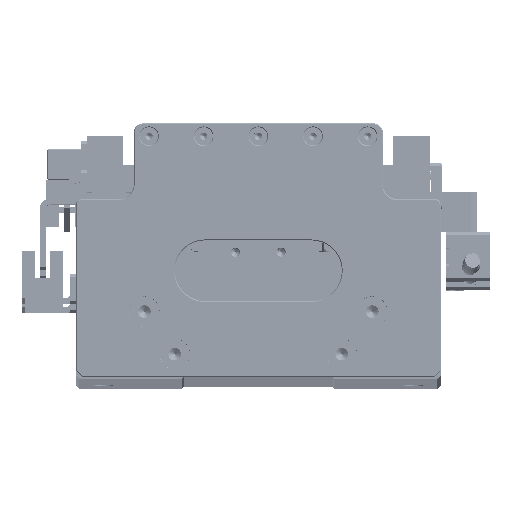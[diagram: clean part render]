
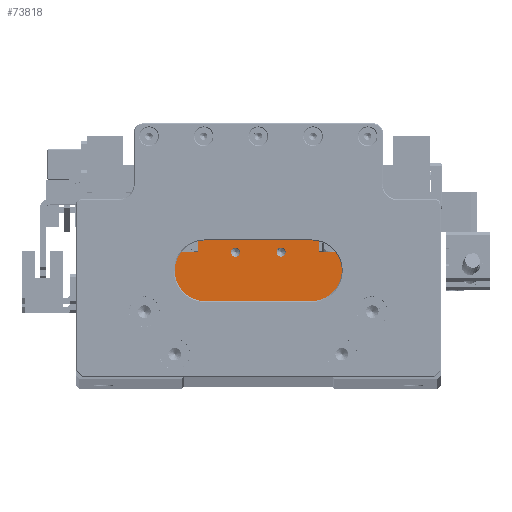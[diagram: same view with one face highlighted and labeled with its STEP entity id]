
A CAD part, top view. The second image highlights one B-rep face of the part: STEP entity #73818.
In plain terms, the highlighted planar face has unit normal (0, 0, 1).
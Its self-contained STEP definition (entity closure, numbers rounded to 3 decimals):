
#663 = VECTOR ( 'NONE', #61276, 1000. ) ;
#2463 = DIRECTION ( 'NONE',  ( 1., 0., 0. ) ) ;
#2836 = CARTESIAN_POINT ( 'NONE',  ( -7.5, 25.8, 83.854 ) ) ;
#3960 = ORIENTED_EDGE ( 'NONE', *, *, #107617, .F. ) ;
#5144 = CARTESIAN_POINT ( 'NONE',  ( -29.9, 25.7, 83.854 ) ) ;
#5212 = DIRECTION ( 'NONE',  ( -1., 0., 0. ) ) ;
#7177 = AXIS2_PLACEMENT_3D ( 'NONE', #90610, #30553, #100700 ) ;
#8171 = ORIENTED_EDGE ( 'NONE', *, *, #33456, .T. ) ;
#9833 = VECTOR ( 'NONE', #33415, 1000. ) ;
#11932 = ORIENTED_EDGE ( 'NONE', *, *, #79265, .F. ) ;
#12945 = DIRECTION ( 'NONE',  ( 1., 0., 0. ) ) ;
#14779 = VECTOR ( 'NONE', #80963, 1000. ) ;
#16951 = LINE ( 'NONE', #39647, #120546 ) ;
#17219 = VERTEX_POINT ( 'NONE', #97803 ) ;
#17239 = VERTEX_POINT ( 'NONE', #57948 ) ;
#17902 = ORIENTED_EDGE ( 'NONE', *, *, #38079, .F. ) ;
#18469 = DIRECTION ( 'NONE',  ( 0., 1., 0. ) ) ;
#19072 = VECTOR ( 'NONE', #18469, 1000. ) ;
#19134 = VECTOR ( 'NONE', #89101, 1000. ) ;
#25022 = CIRCLE ( 'NONE', #7177, 1.525 ) ;
#30553 = DIRECTION ( 'NONE',  ( 0., 0., 1. ) ) ;
#30595 = DIRECTION ( 'NONE',  ( 0., -1., 0. ) ) ;
#32720 = VECTOR ( 'NONE', #34000, 1000. ) ;
#33415 = DIRECTION ( 'NONE',  ( 1., 0., 0. ) ) ;
#33456 = EDGE_CURVE ( 'NONE', #92421, #48743, #60124, .T. ) ;
#34000 = DIRECTION ( 'NONE',  ( 1., 0., 0. ) ) ;
#34129 = CIRCLE ( 'NONE', #61035, 1.525 ) ;
#34288 = AXIS2_PLACEMENT_3D ( 'NONE', #35090, #65336, #5212 ) ;
#34360 = CARTESIAN_POINT ( 'NONE',  ( 20., 29.7, 83.854 ) ) ;
#34937 = VERTEX_POINT ( 'NONE', #34360 ) ;
#35090 = CARTESIAN_POINT ( 'NONE',  ( -7.5, 18.2, 83.854 ) ) ;
#37169 = VECTOR ( 'NONE', #30595, 1000. ) ;
#38079 = EDGE_CURVE ( 'NONE', #17219, #17239, #25022, .T. ) ;
#38229 = CARTESIAN_POINT ( 'NONE',  ( -29.9, 18.2, 83.854 ) ) ;
#39647 = CARTESIAN_POINT ( 'NONE',  ( -7.5, 29.7, 83.854 ) ) ;
#43361 = CARTESIAN_POINT ( 'NONE',  ( 29.9, 6.5, 83.854 ) ) ;
#44122 = CARTESIAN_POINT ( 'NONE',  ( -7.5, 25.7, 83.854 ) ) ;
#45137 = VERTEX_POINT ( 'NONE', #47247 ) ;
#46831 = CIRCLE ( 'NONE', #104392, 1.525 ) ;
#47006 = EDGE_LOOP ( 'NONE', ( #79348, #17902 ) ) ;
#47039 = CIRCLE ( 'NONE', #58104, 1.525 ) ;
#47247 = CARTESIAN_POINT ( 'NONE',  ( 20., 25.7, 83.854 ) ) ;
#48743 = VERTEX_POINT ( 'NONE', #43361 ) ;
#49333 = VERTEX_POINT ( 'NONE', #115603 ) ;
#49713 = DIRECTION ( 'NONE',  ( 1., 0., 0. ) ) ;
#49926 = VERTEX_POINT ( 'NONE', #129029 ) ;
#51392 = FACE_BOUND ( 'NONE', #82737, .T. ) ;
#51939 = EDGE_CURVE ( 'NONE', #103830, #34937, #16951, .T. ) ;
#53576 = ORIENTED_EDGE ( 'NONE', *, *, #51939, .F. ) ;
#54558 = CARTESIAN_POINT ( 'NONE',  ( 7.5, 25.8, 83.854 ) ) ;
#57948 = CARTESIAN_POINT ( 'NONE',  ( 9.025, 25.8, 83.854 ) ) ;
#58104 = AXIS2_PLACEMENT_3D ( 'NONE', #122707, #62617, #2463 ) ;
#58476 = CARTESIAN_POINT ( 'NONE',  ( -20., 18.2, 83.854 ) ) ;
#58706 = EDGE_CURVE ( 'NONE', #85981, #103830, #72481, .T. ) ;
#60124 = LINE ( 'NONE', #103602, #9833 ) ;
#60558 = EDGE_CURVE ( 'NONE', #17239, #17219, #34129, .T. ) ;
#61035 = AXIS2_PLACEMENT_3D ( 'NONE', #54558, #124724, #64650 ) ;
#61276 = DIRECTION ( 'NONE',  ( 1., 0., 0. ) ) ;
#62617 = DIRECTION ( 'NONE',  ( 0., 0., 1. ) ) ;
#63281 = CARTESIAN_POINT ( 'NONE',  ( -29.9, 6.5, 83.854 ) ) ;
#64615 = CARTESIAN_POINT ( 'NONE',  ( -20., 29.7, 83.854 ) ) ;
#64650 = DIRECTION ( 'NONE',  ( 1., 0., 0. ) ) ;
#65336 = DIRECTION ( 'NONE',  ( 0., 0., -1. ) ) ;
#66053 = ORIENTED_EDGE ( 'NONE', *, *, #74170, .F. ) ;
#66941 = EDGE_CURVE ( 'NONE', #49333, #49926, #47039, .T. ) ;
#71173 = ORIENTED_EDGE ( 'NONE', *, *, #58706, .F. ) ;
#72481 = LINE ( 'NONE', #58476, #19134 ) ;
#73053 = DIRECTION ( 'NONE',  ( 0., 0., 1. ) ) ;
#73818 = ADVANCED_FACE ( 'NONE', ( #81197, #104754, #51392 ), #95161, .F. ) ;
#74170 = EDGE_CURVE ( 'NONE', #34937, #45137, #117208, .T. ) ;
#79265 = EDGE_CURVE ( 'NONE', #49926, #49333, #46831, .T. ) ;
#79348 = ORIENTED_EDGE ( 'NONE', *, *, #60558, .F. ) ;
#80598 = CARTESIAN_POINT ( 'NONE',  ( 20., 18.2, 83.854 ) ) ;
#80963 = DIRECTION ( 'NONE',  ( 0., -1., 0. ) ) ;
#81197 = FACE_OUTER_BOUND ( 'NONE', #128711, .T. ) ;
#82027 = EDGE_CURVE ( 'NONE', #45137, #112938, #104331, .T. ) ;
#82737 = EDGE_LOOP ( 'NONE', ( #90190, #11932 ) ) ;
#85981 = VERTEX_POINT ( 'NONE', #108670 ) ;
#86044 = LINE ( 'NONE', #44122, #32720 ) ;
#87052 = ORIENTED_EDGE ( 'NONE', *, *, #101445, .F. ) ;
#89101 = DIRECTION ( 'NONE',  ( 0., 1., 0. ) ) ;
#90190 = ORIENTED_EDGE ( 'NONE', *, *, #66941, .F. ) ;
#90610 = CARTESIAN_POINT ( 'NONE',  ( 7.5, 25.8, 83.854 ) ) ;
#92421 = VERTEX_POINT ( 'NONE', #63281 ) ;
#95161 = PLANE ( 'NONE',  #34288 ) ;
#97415 = VERTEX_POINT ( 'NONE', #5144 ) ;
#97803 = CARTESIAN_POINT ( 'NONE',  ( 5.975, 25.8, 83.854 ) ) ;
#100700 = DIRECTION ( 'NONE',  ( 1., 0., 0. ) ) ;
#101445 = EDGE_CURVE ( 'NONE', #92421, #97415, #122642, .T. ) ;
#103602 = CARTESIAN_POINT ( 'NONE',  ( -7.5, 6.5, 83.854 ) ) ;
#103830 = VERTEX_POINT ( 'NONE', #64615 ) ;
#104331 = LINE ( 'NONE', #121351, #663 ) ;
#104392 = AXIS2_PLACEMENT_3D ( 'NONE', #2836, #73053, #12945 ) ;
#104754 = FACE_BOUND ( 'NONE', #47006, .T. ) ;
#107617 = EDGE_CURVE ( 'NONE', #112938, #48743, #118361, .T. ) ;
#108052 = ORIENTED_EDGE ( 'NONE', *, *, #121946, .F. ) ;
#108670 = CARTESIAN_POINT ( 'NONE',  ( -20., 25.7, 83.854 ) ) ;
#111250 = CARTESIAN_POINT ( 'NONE',  ( 29.9, 18.2, 83.854 ) ) ;
#112938 = VERTEX_POINT ( 'NONE', #115248 ) ;
#115248 = CARTESIAN_POINT ( 'NONE',  ( 29.9, 25.7, 83.854 ) ) ;
#115603 = CARTESIAN_POINT ( 'NONE',  ( -5.975, 25.8, 83.854 ) ) ;
#117208 = LINE ( 'NONE', #80598, #37169 ) ;
#118361 = LINE ( 'NONE', #111250, #14779 ) ;
#120546 = VECTOR ( 'NONE', #49713, 1000. ) ;
#121351 = CARTESIAN_POINT ( 'NONE',  ( -7.5, 25.7, 83.854 ) ) ;
#121946 = EDGE_CURVE ( 'NONE', #97415, #85981, #86044, .T. ) ;
#122642 = LINE ( 'NONE', #38229, #19072 ) ;
#122707 = CARTESIAN_POINT ( 'NONE',  ( -7.5, 25.8, 83.854 ) ) ;
#124724 = DIRECTION ( 'NONE',  ( 0., 0., 1. ) ) ;
#127949 = ORIENTED_EDGE ( 'NONE', *, *, #82027, .F. ) ;
#128711 = EDGE_LOOP ( 'NONE', ( #108052, #87052, #8171, #3960, #127949, #66053, #53576, #71173 ) ) ;
#129029 = CARTESIAN_POINT ( 'NONE',  ( -9.025, 25.8, 83.854 ) ) ;
